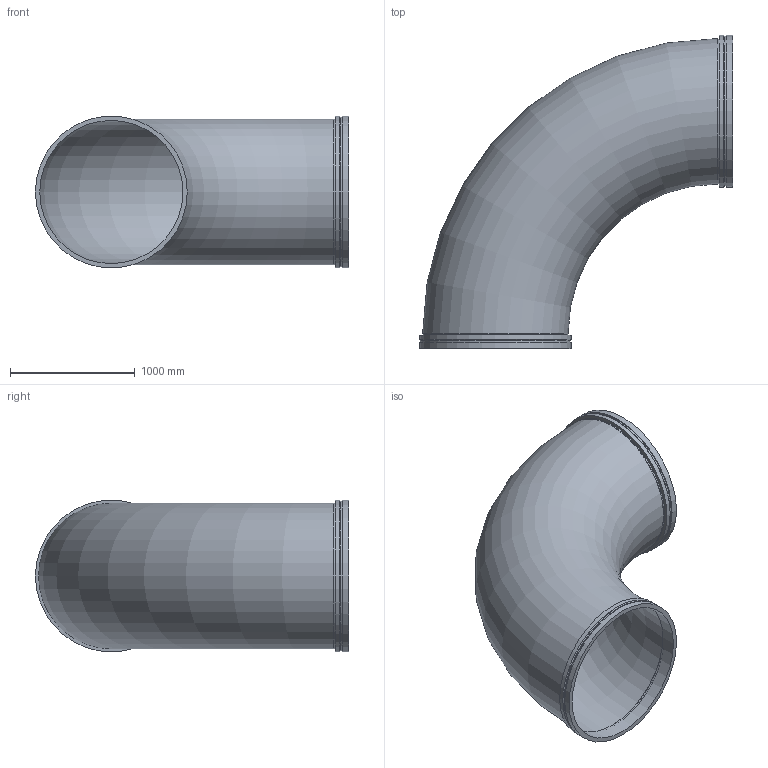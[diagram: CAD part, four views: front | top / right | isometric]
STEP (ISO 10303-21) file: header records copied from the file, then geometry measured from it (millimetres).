
FILE_DESCRIPTION(/* description */ ('VIC 90 DEG ELBOW No W100 VR','CAx-IF Rec.Pracs.---Representation and Presentation of Product Manufacturing Information (PMI)---4.0---2014-10-13'),/* implementation_level */ '2;1');
FILE_NAME(/* name */ 'C:\Users\kkamble\AppData\Roaming\Autodesk\ApplicationPlugins\Back Up\Victaulic_Vic-Ring_Elbow 90 Deg LR_No W100 VR (AGR)\Victaulic_Vic-Ring_Elbow 90 Deg LR_No W100 VR (AGR)_46 (1150).stp',/* time_stamp */ '2020-09-10T11:44:32+05:00',/* author */ ('cps_temp'),/* organization */ ('Victaulic'),/* preprocessor_version */ 'ST-DEVELOPER v17.2',/* originating_system */ 'Autodesk Inventor 2019',/* authorisation */ '');
FILE_SCHEMA (('AP242_MANAGED_MODEL_BASED_3D_ENGINEERING_MIM_LF { 1 0 10303 442 1 1 4 }'));
Length unit declared in the file: inch
Products named in the file (1): W100 VR-46.0
Bounding box: 2514.6 x 2514.6 x 1219.2 mm (x, y, z)
Volume: 125067330.8 mm3; surface area: 22737435.1 mm2
Topology: 1 solids, 1 shells, 20 faces, 51 edges, 37 vertices
Faces by surface type: cylinder 10, plane 6, cone 2, torus 2
Full cylindrical faces by diameter (mm): 1149.35 x2, 1168.4 x2, 1203.325 x2, 1219.2 x4
Entity records: 802 total; most frequent: DIRECTION 158, CARTESIAN_POINT 126, ORIENTED_EDGE 102, AXIS2_PLACEMENT_3D 73, EDGE_CURVE 51, CIRCLE 39, VERTEX_POINT 37, EDGE_LOOP 26
